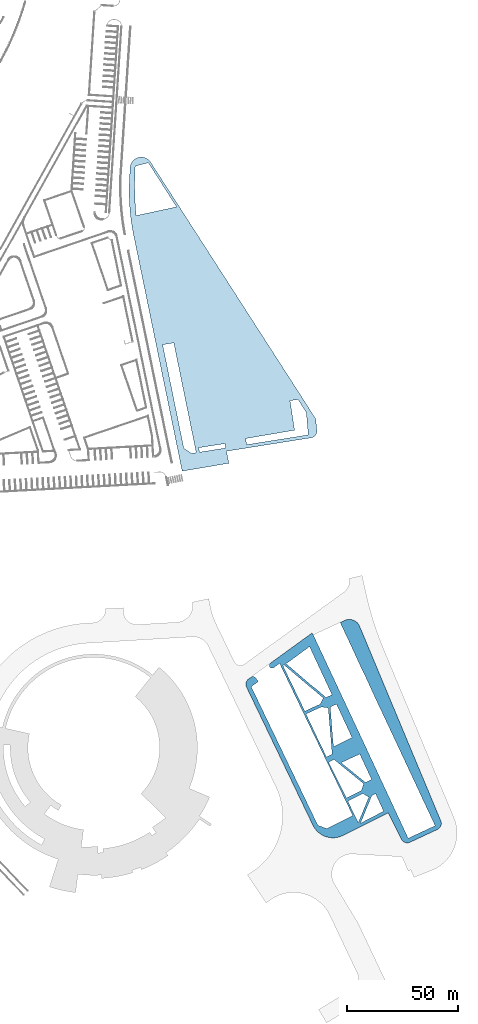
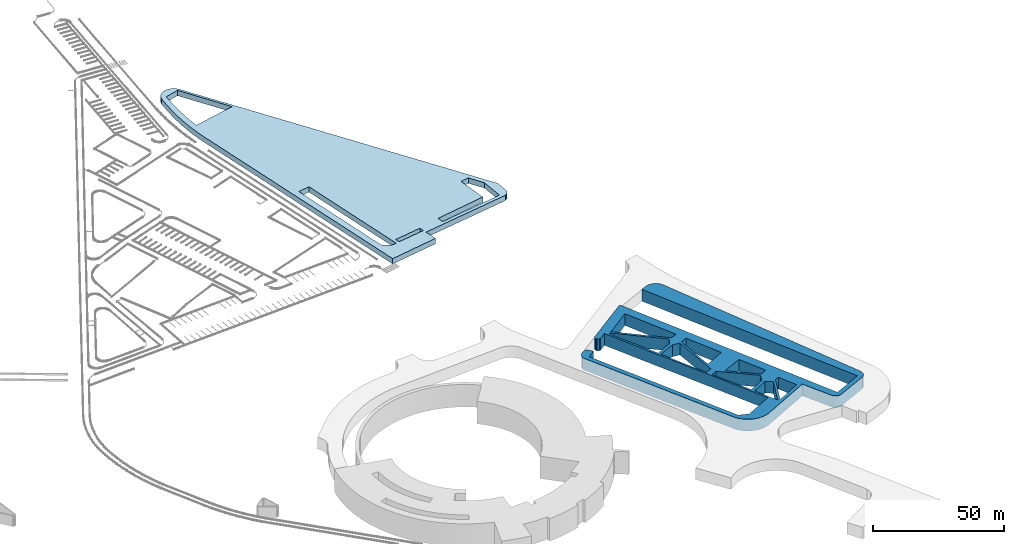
# One storey, part 13 of 112: 2 slabs.
"""IFC2X3 building model written with IfcOpenShell, lengths in millimetres."""

from ifc_helpers import new_model, entity, si_unit, converted_unit, derived_unit, direction, frame, frame_2d, origin, place, context, subcontext, project, spatial, polyline, circle_curve, parameter, trimmed, segment, composite_curve, outline, extrude, material, type_object, element, save


model = new_model("IFC2X3")

# Units and contexts
model_context = context("Model", 3, precision=0.01, world=origin(), true_north=direction((6.123031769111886e-17, 1.0)))
body_context = subcontext(model_context, "Body", "Model", "MODEL_VIEW")
ifc_project = project(units=[si_unit("LENGTHUNIT", "METRE", prefix="MILLI"), si_unit("AREAUNIT", "SQUARE_METRE"), si_unit("VOLUMEUNIT", "CUBIC_METRE"), converted_unit("PLANEANGLEUNIT", "DEGREE", entity("IfcRatioMeasure", 0.017453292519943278), si_unit("PLANEANGLEUNIT", "RADIAN"), dimensions=[0, 0, 0, 0, 0, 0, 0]), si_unit("MASSUNIT", "GRAM", prefix="KILO"), derived_unit("MASSDENSITYUNIT", [(si_unit("MASSUNIT", "GRAM", prefix="KILO"), 1), (si_unit("LENGTHUNIT", "METRE"), -3)]), derived_unit("MOMENTOFINERTIAUNIT", [(si_unit("LENGTHUNIT", "METRE"), 4)]), si_unit("TIMEUNIT", "SECOND"), si_unit("FREQUENCYUNIT", "HERTZ"), si_unit("THERMODYNAMICTEMPERATUREUNIT", "DEGREE_CELSIUS"), derived_unit("THERMALTRANSMITTANCEUNIT", [(si_unit("MASSUNIT", "GRAM", prefix="KILO"), 1), (si_unit("THERMODYNAMICTEMPERATUREUNIT", "KELVIN"), -1), (si_unit("TIMEUNIT", "SECOND"), -3)]), derived_unit("THERMALCONDUCTANCEUNIT", [(si_unit("MASSUNIT", "GRAM", prefix="KILO"), 1), (si_unit("LENGTHUNIT", "METRE"), 1), (si_unit("THERMODYNAMICTEMPERATUREUNIT", "KELVIN"), -1), (si_unit("TIMEUNIT", "SECOND"), -3)]), derived_unit("VOLUMETRICFLOWRATEUNIT", [(si_unit("LENGTHUNIT", "METRE"), 3), (si_unit("TIMEUNIT", "SECOND"), -1)]), derived_unit("MASSFLOWRATEUNIT", [(si_unit("MASSUNIT", "GRAM", prefix="KILO"), 1), (si_unit("TIMEUNIT", "SECOND"), -1)]), derived_unit("ROTATIONALFREQUENCYUNIT", [(si_unit("TIMEUNIT", "SECOND"), -1)]), si_unit("ELECTRICCURRENTUNIT", "AMPERE"), si_unit("ELECTRICVOLTAGEUNIT", "VOLT"), si_unit("POWERUNIT", "WATT"), converted_unit("FORCEUNIT", "KIP", entity("IfcRatioMeasure", 2.088543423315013e-05), si_unit("FORCEUNIT", "NEWTON"), dimensions=[1, 1, -2, 0, 0, 0, 0]), si_unit("ILLUMINANCEUNIT", "LUX"), si_unit("LUMINOUSFLUXUNIT", "LUMEN"), si_unit("LUMINOUSINTENSITYUNIT", "CANDELA"), derived_unit("USERDEFINED", [(si_unit("MASSUNIT", "GRAM", prefix="KILO"), -1), (si_unit("LENGTHUNIT", "METRE"), -2), (si_unit("TIMEUNIT", "SECOND"), 3), (si_unit("LUMINOUSFLUXUNIT", "LUMEN"), 1)]), derived_unit("USERDEFINED", [(si_unit("MASSUNIT", "GRAM", prefix="KILO"), 1), (si_unit("LENGTHUNIT", "METRE"), 3), (si_unit("TIMEUNIT", "SECOND"), -3), (si_unit("ELECTRICCURRENTUNIT", "AMPERE"), -2)]), derived_unit("USERDEFINED", [(si_unit("LENGTHUNIT", "METRE"), 2), (si_unit("TIMEUNIT", "SECOND"), -2)]), derived_unit("SOUNDPOWERUNIT", [(si_unit("MASSUNIT", "GRAM", prefix="KILO"), 1), (si_unit("LENGTHUNIT", "METRE"), 2), (si_unit("TIMEUNIT", "SECOND"), -3)]), derived_unit("SOUNDPRESSUREUNIT", [(si_unit("MASSUNIT", "GRAM", prefix="KILO"), 1), (si_unit("LENGTHUNIT", "METRE"), -1), (si_unit("TIMEUNIT", "SECOND"), -2)]), derived_unit("LINEARVELOCITYUNIT", [(si_unit("LENGTHUNIT", "METRE"), 1), (si_unit("TIMEUNIT", "SECOND"), -1)]), si_unit("PRESSUREUNIT", "PASCAL"), derived_unit("USERDEFINED", [(si_unit("LENGTHUNIT", "METRE"), -2), (si_unit("MASSUNIT", "GRAM", prefix="KILO"), 1), (si_unit("TIMEUNIT", "SECOND"), -2)]), derived_unit("LINEARFORCEUNIT", [(si_unit("MASSUNIT", "GRAM", prefix="KILO"), 1), (si_unit("LENGTHUNIT", "METRE"), 1), (si_unit("TIMEUNIT", "SECOND"), -2), (si_unit("LENGTHUNIT", "METRE"), -1)]), derived_unit("PLANARFORCEUNIT", [(si_unit("MASSUNIT", "GRAM", prefix="KILO"), 1), (si_unit("LENGTHUNIT", "METRE"), 1), (si_unit("TIMEUNIT", "SECOND"), -2), (si_unit("LENGTHUNIT", "METRE"), -2)]), derived_unit("SPECIFICHEATCAPACITYUNIT", [(si_unit("LENGTHUNIT", "METRE"), 2), (si_unit("TIMEUNIT", "SECOND"), -2), (si_unit("THERMODYNAMICTEMPERATUREUNIT", "KELVIN"), -1)]), derived_unit("VAPORPERMEABILITYUNIT", [(si_unit("TIMEUNIT", "SECOND"), 1), (si_unit("LENGTHUNIT", "METRE"), -1)]), derived_unit("DYNAMICVISCOSITYUNIT", [(si_unit("MASSUNIT", "GRAM", prefix="KILO"), 1), (si_unit("LENGTHUNIT", "METRE"), -1), (si_unit("TIMEUNIT", "SECOND"), -1)]), derived_unit("THERMALEXPANSIONCOEFFICIENTUNIT", [(si_unit("THERMODYNAMICTEMPERATUREUNIT", "KELVIN"), -1)])], contexts=[model_context])

# Site, building, storey
site_placement = place(None, frame((0.0, 0.0, 0.0), z_axis=(0.0, 0.0, 1.0), x_axis=(0.8191520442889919, 0.5735764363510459, 0.0)))
site = spatial("IfcSite", under=ifc_project, at=site_placement, Name="Default", CompositionType="ELEMENT")
building_placement = place(site_placement, origin())
building = spatial("IfcBuilding", under=site, at=building_placement, CompositionType="ELEMENT")
storey_placement = place(building_placement, frame((0.0, 0.0, -3600.0)))
storey = spatial("IfcBuildingStorey", under=building, at=storey_placement, Name="0.UG -3.60", CompositionType="ELEMENT", Elevation=-3600.0000000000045)

# Slabs
ifc_material = material(Name="Paveta")
slab_type_1 = type_object("IfcSlabType", Name="Slab-169", PredefinedType="FLOOR", material=ifc_material)
slab_1_placement = place(storey_placement, origin())
element("IfcSlab", 1, at=slab_1_placement, inside=storey, type_object=slab_type_1, Name="Slab-169 211319:Slab-169 211319", ObjectType="Slab-169 211319:Slab-169 211319", PredefinedType="FLOOR", context=body_context, shape_type="SweptSolid", body=[
    extrude(outline(composite_curve([segment(polyline([(43071.03190825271, 1738.610100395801), (56224.49976255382, 1738.6101003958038)]), True, "CONTINUOUS"), segment(trimmed(circle_curve(frame_2d((56224.499762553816, 4738.610100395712), x_axis=(0.0, -1.0)), 2999.9999999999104), [parameter(6.615553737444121e-13)], [parameter(88.66524757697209)], True, "PARAMETER"), True, "CONTINUOUS"), segment(polyline([(59223.68575621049, 4668.728948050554), (59538.79208575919, 18192.582782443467)]), True, "CONTINUOUS"), segment(trimmed(circle_curve(frame_2d((56539.60609210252, 18262.463934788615), x_axis=(0.9997286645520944, -0.02329371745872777)), 2999.99999999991), [parameter(359.9999999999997)], [parameter(87.60997068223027)], True, "PARAMETER"), True, "CONTINUOUS"), segment(polyline([(56734.49786299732, 21256.126774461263), (-37633.466793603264, 27399.617452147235)]), True, "CONTINUOUS"), segment(trimmed(circle_curve(frame_2d((-37958.28641176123, 22410.17938602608), x_axis=(0.06496371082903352, 0.9978876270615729)), 5000.000000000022), [parameter(359.99998778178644)], [parameter(92.2490743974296)], True, "PARAMETER"), True, "CONTINUOUS"), segment(polyline([(-42956.62810824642, 22538.943842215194), (-43013.48357666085, 20331.944590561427)]), True, "CONTINUOUS"), segment(polyline([(-43013.48357666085, 20331.944590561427), (-35403.934542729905, 20162.342268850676)]), True, "CONTINUOUS"), segment(polyline([(-35403.934542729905, 20162.342268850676), (-33682.02996714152, 20146.809095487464)]), True, "CONTINUOUS"), segment(polyline([(-33682.02996714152, 20146.809095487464), (-18954.48536273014, 19707.66288582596)]), True, "CONTINUOUS"), segment(polyline([(-18954.48536273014, 19707.66288582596), (-17195.657520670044, 19743.94939613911)]), True, "CONTINUOUS"), segment(polyline([(-17195.657520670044, 19743.94939613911), (-2381.8926140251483, 19307.49806109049)]), True, "CONTINUOUS"), segment(polyline([(-2381.8926140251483, 19307.49806109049), (-567.8527361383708, 19311.210180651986)]), True, "CONTINUOUS"), segment(polyline([(-567.8527361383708, 19311.210180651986), (39988.336689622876, 18419.115191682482)]), True, "CONTINUOUS"), segment(polyline([(39988.336689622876, 18419.115191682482), (42862.36758393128, 18317.737299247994)]), True, "CONTINUOUS"), segment(polyline([(42862.36758393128, 18317.737299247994), (57562.025507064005, 18008.85427087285)]), True, "CONTINUOUS"), segment(polyline([(57562.025507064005, 18008.85427087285), (57241.91716097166, 4673.620382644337)]), True, "CONTINUOUS"), segment(polyline([(57241.91716097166, 4673.620382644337), (6731.493125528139, 5917.830187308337)]), True, "CONTINUOUS"), segment(polyline([(6731.493125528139, 5917.830187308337), (-43355.67135607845, 7048.997599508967)]), True, "CONTINUOUS"), segment(polyline([(-43355.67135607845, 7048.997599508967), (-44378.677783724, 6877.278158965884)]), True, "CONTINUOUS"), segment(polyline([(-44378.677783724, 6877.278158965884), (-40569.40872357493, -15816.172977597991)]), True, "CONTINUOUS"), segment(trimmed(circle_curve(frame_2d((-39385.96536797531, -15617.522973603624), x_axis=(-0.9862027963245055, -0.165541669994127)), 1199.9999999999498), [parameter(3.3077768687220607e-12)], [parameter(90.00000000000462)], True, "PARAMETER"), True, "CONTINUOUS"), segment(polyline([(-39187.31536398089, -16800.96632920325), (-39088.695084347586, -16784.412162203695)]), True, "CONTINUOUS"), segment(trimmed(circle_curve(frame_2d((-39287.345088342, -15600.968806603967), x_axis=(0.16554167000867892, -0.9862027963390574)), 1200.0000000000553), [parameter(0.0)], [parameter(89.99999999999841)], True, "PARAMETER"), True, "CONTINUOUS"), segment(polyline([(-38103.901732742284, -15402.318802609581), (-38650.18924372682, -12147.849574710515)]), True, "CONTINUOUS"), segment(polyline([(-38650.18924372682, -12147.849574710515), (37104.74347231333, -13082.089219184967)]), True, "CONTINUOUS"), segment(polyline([(37104.74347231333, -13082.089219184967), (37134.23059960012, -26039.617306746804)]), True, "CONTINUOUS"), segment(polyline([(37134.23059960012, -26039.617306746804), (34097.244000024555, -29046.21620924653)]), True, "CONTINUOUS"), segment(polyline([(34097.244000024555, -29046.21620924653), (-34942.59757784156, -28194.789711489)]), True, "CONTINUOUS"), segment(polyline([(-34942.59757784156, -28194.789711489), (-35594.715572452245, -24309.842858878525)]), True, "CONTINUOUS"), segment(polyline([(-35594.715572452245, -24309.842858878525), (-37567.12116511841, -24640.92619886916)]), True, "CONTINUOUS"), segment(trimmed(circle_curve(frame_2d((-37318.80866012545, -26120.23039336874), x_axis=(-0.16554167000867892, 0.9862027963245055)), 1499.9999999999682), [parameter(1.3231107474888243e-12)], [parameter(90.0000000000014)], True, "PARAMETER"), True, "CONTINUOUS"), segment(polyline([(-38798.11285462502, -26368.54289836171), (-38577.47140967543, -27682.99870880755)]), True, "CONTINUOUS"), segment(trimmed(circle_curve(frame_2d((-35618.863020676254, -27186.373698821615), x_axis=(-0.9862027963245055, -0.165541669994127)), 2999.999999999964), [parameter(359.9999999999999)], [parameter(79.76473909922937)], True, "PARAMETER"), True, "CONTINUOUS"), segment(polyline([(-35655.85738826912, -30186.145592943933), (32999.513592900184, -31032.83064799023)]), True, "CONTINUOUS"), segment(trimmed(circle_curve(frame_2d((33122.82815154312, -21033.591000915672), x_axis=(-0.012331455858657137, -0.9999239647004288)), 10000.00000000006), [parameter(359.99999999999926)], [parameter(90.8369446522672)], True, "PARAMETER"), True, "CONTINUOUS"), segment(polyline([(43122.802258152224, -21010.83430632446), (43071.03190825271, 1738.610100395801)]), True, "CONTINUOUS")], self_intersect=False), holes=[polyline([(33052.24686687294, -12221.36449235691), (30318.66730757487, -12115.805064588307), (30226.305459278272, -4600.4029259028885), (32897.81751265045, -2980.5500491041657), (41058.25895379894, -12298.266646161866), (33052.24686687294, -12221.36449235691)]), polyline([(41666.356797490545, -11442.72025594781), (32816.900192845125, -1428.7599883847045), (32893.45642768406, 440.8306911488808), (41464.40157684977, 183.91475259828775), (41661.072354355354, -9887.992744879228), (41666.356797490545, -11442.72025594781)]), polyline([(28821.63244893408, -12069.04361538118), (10871.249116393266, -12110.735404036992), (10839.363555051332, -11852.697982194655), (10837.865316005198, -9394.324994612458), (13496.318671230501, -8239.584435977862), (26481.152593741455, -2342.654047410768), (28755.13789857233, -4681.433821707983), (28821.63244893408, -12069.04361538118)]), polyline([(1009.550700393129, -11888.464489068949), (-13097.819268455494, -11636.645996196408), (-12978.565598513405, -9747.763109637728), (-12951.857379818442, -7517.653990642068), (-12789.407789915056, -4021.3401999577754), (-11066.720090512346, -1490.9751878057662), (2875.091079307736, -6988.2461346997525), (8304.229598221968, -9112.917734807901), (8271.707312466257, -11948.308765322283), (1009.550700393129, -11888.464489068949)]), polyline([(-36314.19151131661, -11301.295613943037), (-37073.13306522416, -11193.55650348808), (-37175.375885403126, -10692.31164691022), (-36095.602055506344, -10216.298540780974), (-22769.882627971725, -4468.690192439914), (-21121.617913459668, -3700.7556684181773), (-16003.315102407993, -1496.4244018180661), (-14200.801105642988, -3933.7678924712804), (-14320.872745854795, -7283.780251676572), (-14311.357804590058, -10214.737342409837), (-14401.269273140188, -11525.659126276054), (-36314.19151131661, -11301.295613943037)]), polyline([(13530.134996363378, -7127.039401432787), (13604.263159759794, -3812.9324297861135), (13774.911879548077, 1981.7357243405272), (26285.8882531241, 1683.7925045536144), (26287.817838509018, -1348.8624829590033), (15536.908661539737, -6324.880153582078), (13530.134996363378, -7127.039401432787)]), polyline([(5589.54575250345, -7040.192084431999), (3241.4781851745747, -6221.9753047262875), (-11065.243623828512, -442.88272100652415), (-10905.928216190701, 2589.545117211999), (5550.41791605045, 2164.4898240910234), (5585.754253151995, -2687.803587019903), (5589.54575250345, -7040.192084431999)]), polyline([(-37280.616361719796, -9677.558255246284), (-37597.13281025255, -7197.655569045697), (-39429.32737546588, 3226.3342167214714), (-15598.089424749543, 2644.5286456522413), (-15736.215858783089, -314.7484779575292), (-21347.178952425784, -2690.794175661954), (-23138.293144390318, -3607.369294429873), (-36522.21972895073, -9291.637867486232), (-37280.616361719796, -9677.558255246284)])]), frame((55869.798331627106, -124771.94652904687, -1400.0), z_axis=(0.0, 0.0, 1.0), x_axis=(-0.1500065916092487, -0.9886849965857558, 0.0)), (0.0, 0.0, 1.0), 5500.0),
])
slab_type_2 = type_object("IfcSlabType", Name="Slab-176", PredefinedType="FLOOR", material=ifc_material)
slab_2_placement = place(storey_placement, origin())
element("IfcSlab", 2, at=slab_2_placement, inside=storey, type_object=slab_type_2, Name="Slab-176 219040:Slab-176 219040", ObjectType="Slab-176 219040:Slab-176 219040", PredefinedType="FLOOR", context=body_context, shape_type="SweptSolid", body=[
    extrude(outline(composite_curve([segment(polyline([(-48780.61329852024, -9774.561875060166), (-48029.69757949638, -31041.70755198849)]), True, "CONTINUOUS"), segment(polyline([(-48029.69757949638, -31041.70755198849), (59870.53609226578, -31041.707551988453)]), True, "CONTINUOUS"), segment(trimmed(circle_curve(frame_2d((59870.536092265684, 68958.2924480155), x_axis=(0.264998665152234, -0.9642487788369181)), 100000.00000000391), [parameter(344.6331265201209)], [parameter(359.9999999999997)], True, "PARAMETER"), True, "CONTINUOUS"), segment(polyline([(86370.4026056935, -27466.585435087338), (90055.99074920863, -26453.697516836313)]), True, "CONTINUOUS"), segment(trimmed(circle_curve(frame_2d((88730.99742353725, -21632.453622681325), x_axis=(0.35685416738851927, 0.9341601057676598)), 5000.000000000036), [parameter(216.27399836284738)], [parameter(8.345775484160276e-12)], True, "PARAMETER"), True, "CONTINUOUS"), segment(polyline([(90515.2682604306, -16961.653093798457), (-24813.269365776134, 27641.149286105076)]), True, "CONTINUOUS"), segment(polyline([(-24813.269365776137, 27641.14928610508), (-36550.3917752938, 32124.62253248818)]), True, "CONTINUOUS"), segment(trimmed(circle_curve(frame_2d((-37620.91876698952, 29322.12865023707), x_axis=(-0.11741455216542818, 0.993082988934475)), 3000.0000000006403), [parameter(332.3506887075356)], [parameter(2.7988881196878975e-12)], True, "PARAMETER"), True, "CONTINUOUS"), segment(polyline([(-37973.16242349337, 32301.377617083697), (-42372.70899006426, 31781.2088138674)]), True, "CONTINUOUS"), segment(trimmed(circle_curve(frame_2d((-42020.46533356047, 28801.959847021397), x_axis=(-0.9989742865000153, -0.04528106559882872)), 3000.0000000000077), [parameter(274.1476110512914)], [parameter(5.088887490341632e-14)], True, "PARAMETER"), True, "CONTINUOUS"), segment(polyline([(-45017.38819307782, 28666.116650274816), (-43274.966081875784, -9774.561875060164)]), True, "CONTINUOUS"), segment(polyline([(-43274.96608187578, -9774.561875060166), (-48780.61329852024, -9774.561875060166)]), True, "CONTINUOUS")], self_intersect=False), holes=[polyline([(-38064.60990984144, -28245.841832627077), (-41065.99299113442, -25381.68834497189), (-41165.30330829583, -23190.740496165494), (9097.424210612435, -23141.491947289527), (9285.578489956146, -28175.444307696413), (-38064.60990984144, -28245.841832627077)]), polyline([(-41233.29172626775, -21690.806363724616), (-41769.32094052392, -9865.123900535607), (-39771.37232902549, -9774.561875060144), (-39231.32708474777, -21688.844742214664), (-41233.29172626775, -21690.806363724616)]), polyline([(-42201.77908844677, -324.3914020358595), (-43468.601381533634, 27623.778105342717), (-33467.892096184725, 28806.18563338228), (-26990.95722338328, 26332.05584180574), (-26846.718162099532, 22719.430095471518), (-40180.87274264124, 22046.700945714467), (-39444.18230161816, -199.39627189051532), (-42201.77908844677, -324.3914020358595)]), composite_curve([segment(polyline([(68417.68481622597, -28163.165808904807), (68599.89077757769, -9647.53490153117)]), True, "CONTINUOUS"), segment(polyline([(68599.89077757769, -9647.53490153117), (90534.4414768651, -18026.33234441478)]), True, "CONTINUOUS"), segment(polyline([(90534.4414768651, -18026.33234441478), (90218.05435110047, -24074.31284328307)]), True, "CONTINUOUS"), segment(trimmed(circle_curve(frame_2d((52804.89007776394, 115239.42531294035), x_axis=(0.10823427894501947, -0.9941254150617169)), 144250.0000000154), [parameter(0.0)], [parameter(8.818749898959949)], True, "PARAMETER"), False, "CONTINUOUS")], self_intersect=False)]), frame((110852.2470899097, 42715.66967552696, -400.0), z_axis=(0.0, 0.0, -1.0), x_axis=(0.3967785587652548, 0.9179143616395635, 0.0)), (0.0, 0.0, -1.0), 2499.9999999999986),
])

save(model, "model.ifc")
